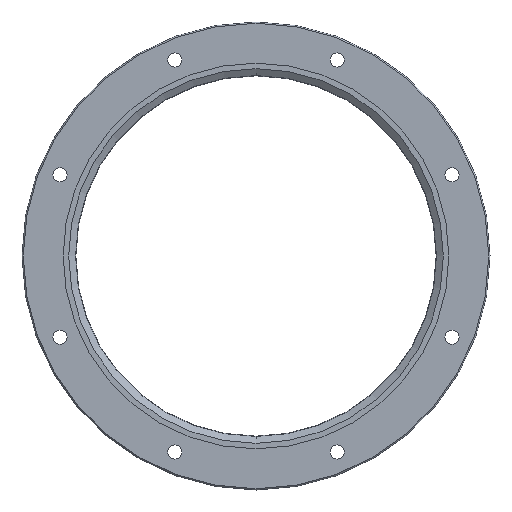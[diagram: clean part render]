
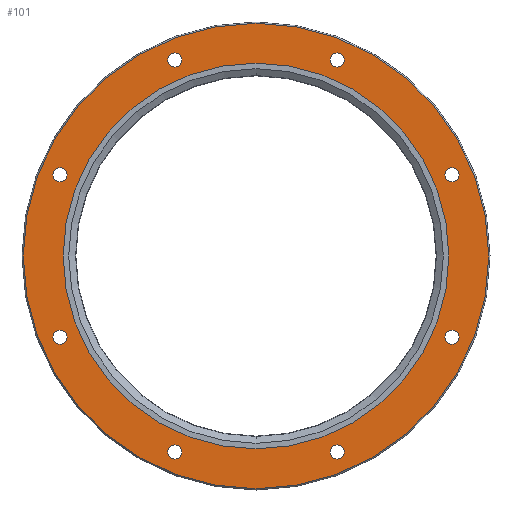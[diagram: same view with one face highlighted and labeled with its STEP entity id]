
A CAD part, front view. The second image highlights one B-rep face of the part: STEP entity #101.
In plain terms, the highlighted planar face has unit normal (0, -1, 0).
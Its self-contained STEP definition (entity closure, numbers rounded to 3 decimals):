
#101=ADVANCED_FACE('',(#190,#191,#192,#193,#194,#195,#196,#197,#198,#199),#200,.T.);
#190=FACE_OUTER_BOUND('',#342,.T.);
#191=FACE_BOUND('',#343,.T.);
#192=FACE_BOUND('',#344,.T.);
#193=FACE_BOUND('',#345,.T.);
#194=FACE_BOUND('',#346,.T.);
#195=FACE_BOUND('',#347,.T.);
#196=FACE_BOUND('',#348,.T.);
#197=FACE_BOUND('',#349,.T.);
#198=FACE_BOUND('',#350,.T.);
#199=FACE_BOUND('',#351,.T.);
#200=PLANE('',#352);
#342=EDGE_LOOP('',(#624,#625));
#343=EDGE_LOOP('',(#626,#627));
#344=EDGE_LOOP('',(#628,#629));
#345=EDGE_LOOP('',(#630,#631));
#346=EDGE_LOOP('',(#632,#633));
#347=EDGE_LOOP('',(#634,#635));
#348=EDGE_LOOP('',(#636,#637));
#349=EDGE_LOOP('',(#638,#639));
#350=EDGE_LOOP('',(#640,#641));
#351=EDGE_LOOP('',(#642,#643));
#352=AXIS2_PLACEMENT_3D('',#644,#645,#646);
#624=ORIENTED_EDGE('',*,*,#978,.F.);
#625=ORIENTED_EDGE('',*,*,#1006,.F.);
#626=ORIENTED_EDGE('',*,*,#1007,.T.);
#627=ORIENTED_EDGE('',*,*,#918,.T.);
#628=ORIENTED_EDGE('',*,*,#1008,.T.);
#629=ORIENTED_EDGE('',*,*,#926,.T.);
#630=ORIENTED_EDGE('',*,*,#1009,.T.);
#631=ORIENTED_EDGE('',*,*,#934,.T.);
#632=ORIENTED_EDGE('',*,*,#1010,.T.);
#633=ORIENTED_EDGE('',*,*,#942,.T.);
#634=ORIENTED_EDGE('',*,*,#1011,.T.);
#635=ORIENTED_EDGE('',*,*,#950,.T.);
#636=ORIENTED_EDGE('',*,*,#1012,.T.);
#637=ORIENTED_EDGE('',*,*,#958,.T.);
#638=ORIENTED_EDGE('',*,*,#1013,.T.);
#639=ORIENTED_EDGE('',*,*,#1002,.T.);
#640=ORIENTED_EDGE('',*,*,#1014,.T.);
#641=ORIENTED_EDGE('',*,*,#974,.T.);
#642=ORIENTED_EDGE('',*,*,#1015,.T.);
#643=ORIENTED_EDGE('',*,*,#966,.T.);
#644=CARTESIAN_POINT('',(-90.5,-9.825,0.0));
#645=DIRECTION('',(0.0,-1.0,0.0));
#646=DIRECTION('',(0.0,0.0,-1.0));
#918=EDGE_CURVE('',#1066,#1067,#1068,.T.);
#926=EDGE_CURVE('',#1082,#1083,#1084,.T.);
#934=EDGE_CURVE('',#1098,#1099,#1100,.T.);
#942=EDGE_CURVE('',#1114,#1115,#1116,.T.);
#950=EDGE_CURVE('',#1130,#1131,#1132,.T.);
#958=EDGE_CURVE('',#1146,#1147,#1148,.T.);
#966=EDGE_CURVE('',#1162,#1163,#1164,.T.);
#974=EDGE_CURVE('',#1178,#1179,#1180,.T.);
#978=EDGE_CURVE('',#1186,#1187,#1188,.T.);
#1002=EDGE_CURVE('',#1228,#1229,#1230,.T.);
#1006=EDGE_CURVE('',#1187,#1186,#1236,.T.);
#1007=EDGE_CURVE('',#1067,#1066,#1237,.T.);
#1008=EDGE_CURVE('',#1083,#1082,#1238,.T.);
#1009=EDGE_CURVE('',#1099,#1098,#1239,.T.);
#1010=EDGE_CURVE('',#1115,#1114,#1240,.T.);
#1011=EDGE_CURVE('',#1131,#1130,#1241,.T.);
#1012=EDGE_CURVE('',#1147,#1146,#1242,.T.);
#1013=EDGE_CURVE('',#1229,#1228,#1243,.T.);
#1014=EDGE_CURVE('',#1179,#1178,#1244,.T.);
#1015=EDGE_CURVE('',#1163,#1162,#1245,.T.);
#1066=VERTEX_POINT('',#1298);
#1067=VERTEX_POINT('',#1299);
#1068=CIRCLE('',#1300,2.75);
#1082=VERTEX_POINT('',#1318);
#1083=VERTEX_POINT('',#1319);
#1084=CIRCLE('',#1320,2.75);
#1098=VERTEX_POINT('',#1338);
#1099=VERTEX_POINT('',#1339);
#1100=CIRCLE('',#1340,2.75);
#1114=VERTEX_POINT('',#1358);
#1115=VERTEX_POINT('',#1359);
#1116=CIRCLE('',#1360,2.75);
#1130=VERTEX_POINT('',#1378);
#1131=VERTEX_POINT('',#1379);
#1132=CIRCLE('',#1380,2.75);
#1146=VERTEX_POINT('',#1398);
#1147=VERTEX_POINT('',#1399);
#1148=CIRCLE('',#1400,2.75);
#1162=VERTEX_POINT('',#1418);
#1163=VERTEX_POINT('',#1419);
#1164=CIRCLE('',#1420,2.75);
#1178=VERTEX_POINT('',#1438);
#1179=VERTEX_POINT('',#1439);
#1180=CIRCLE('',#1440,2.75);
#1186=VERTEX_POINT('',#1448);
#1187=VERTEX_POINT('',#1449);
#1188=CIRCLE('',#1450,90.5);
#1228=VERTEX_POINT('',#1502);
#1229=VERTEX_POINT('',#1503);
#1230=CIRCLE('',#1504,75.0);
#1236=CIRCLE('',#1512,90.5);
#1237=CIRCLE('',#1513,2.75);
#1238=CIRCLE('',#1514,2.75);
#1239=CIRCLE('',#1515,2.75);
#1240=CIRCLE('',#1516,2.75);
#1241=CIRCLE('',#1517,2.75);
#1242=CIRCLE('',#1518,2.75);
#1243=CIRCLE('',#1519,75.0);
#1244=CIRCLE('',#1520,2.75);
#1245=CIRCLE('',#1521,2.75);
#1298=CARTESIAN_POINT('',(-76.22,-9.825,28.821));
#1299=CARTESIAN_POINT('',(-76.22,-9.825,34.321));
#1300=AXIS2_PLACEMENT_3D('',#1580,#1581,#1582);
#1318=CARTESIAN_POINT('',(-31.571,-9.825,73.47));
#1319=CARTESIAN_POINT('',(-31.571,-9.825,78.97));
#1320=AXIS2_PLACEMENT_3D('',#1596,#1597,#1598);
#1338=CARTESIAN_POINT('',(31.571,-9.825,73.47));
#1339=CARTESIAN_POINT('',(31.571,-9.825,78.97));
#1340=AXIS2_PLACEMENT_3D('',#1612,#1613,#1614);
#1358=CARTESIAN_POINT('',(76.22,-9.825,28.821));
#1359=CARTESIAN_POINT('',(76.22,-9.825,34.321));
#1360=AXIS2_PLACEMENT_3D('',#1628,#1629,#1630);
#1378=CARTESIAN_POINT('',(76.22,-9.825,-34.321));
#1379=CARTESIAN_POINT('',(76.22,-9.825,-28.821));
#1380=AXIS2_PLACEMENT_3D('',#1644,#1645,#1646);
#1398=CARTESIAN_POINT('',(31.571,-9.825,-78.97));
#1399=CARTESIAN_POINT('',(31.571,-9.825,-73.47));
#1400=AXIS2_PLACEMENT_3D('',#1660,#1661,#1662);
#1418=CARTESIAN_POINT('',(-31.571,-9.825,-78.97));
#1419=CARTESIAN_POINT('',(-31.571,-9.825,-73.47));
#1420=AXIS2_PLACEMENT_3D('',#1676,#1677,#1678);
#1438=CARTESIAN_POINT('',(-76.22,-9.825,-34.321));
#1439=CARTESIAN_POINT('',(-76.22,-9.825,-28.821));
#1440=AXIS2_PLACEMENT_3D('',#1692,#1693,#1694);
#1448=CARTESIAN_POINT('',(0.0,-9.825,90.5));
#1449=CARTESIAN_POINT('',(0.,-9.825,-90.5));
#1450=AXIS2_PLACEMENT_3D('',#1700,#1701,#1702);
#1502=CARTESIAN_POINT('',(0.,-9.825,-75.0));
#1503=CARTESIAN_POINT('',(0.0,-9.825,75.0));
#1504=AXIS2_PLACEMENT_3D('',#1748,#1749,#1750);
#1512=AXIS2_PLACEMENT_3D('',#1756,#1757,#1758);
#1513=AXIS2_PLACEMENT_3D('',#1759,#1760,#1761);
#1514=AXIS2_PLACEMENT_3D('',#1762,#1763,#1764);
#1515=AXIS2_PLACEMENT_3D('',#1765,#1766,#1767);
#1516=AXIS2_PLACEMENT_3D('',#1768,#1769,#1770);
#1517=AXIS2_PLACEMENT_3D('',#1771,#1772,#1773);
#1518=AXIS2_PLACEMENT_3D('',#1774,#1775,#1776);
#1519=AXIS2_PLACEMENT_3D('',#1777,#1778,#1779);
#1520=AXIS2_PLACEMENT_3D('',#1780,#1781,#1782);
#1521=AXIS2_PLACEMENT_3D('',#1783,#1784,#1785);
#1580=CARTESIAN_POINT('',(-76.22,-9.825,31.571));
#1581=DIRECTION('',(-0.0,1.0,0.0));
#1582=DIRECTION('',(0.0,0.0,1.0));
#1596=CARTESIAN_POINT('',(-31.571,-9.825,76.22));
#1597=DIRECTION('',(-0.0,1.0,0.0));
#1598=DIRECTION('',(0.0,0.0,1.0));
#1612=CARTESIAN_POINT('',(31.571,-9.825,76.22));
#1613=DIRECTION('',(-0.0,1.0,0.0));
#1614=DIRECTION('',(0.0,0.0,1.0));
#1628=CARTESIAN_POINT('',(76.22,-9.825,31.571));
#1629=DIRECTION('',(-0.0,1.0,0.0));
#1630=DIRECTION('',(0.0,0.0,1.0));
#1644=CARTESIAN_POINT('',(76.22,-9.825,-31.571));
#1645=DIRECTION('',(-0.0,1.0,0.0));
#1646=DIRECTION('',(0.0,0.0,1.0));
#1660=CARTESIAN_POINT('',(31.571,-9.825,-76.22));
#1661=DIRECTION('',(-0.0,1.0,0.0));
#1662=DIRECTION('',(0.0,0.0,1.0));
#1676=CARTESIAN_POINT('',(-31.571,-9.825,-76.22));
#1677=DIRECTION('',(-0.0,1.0,0.0));
#1678=DIRECTION('',(0.0,0.0,1.0));
#1692=CARTESIAN_POINT('',(-76.22,-9.825,-31.571));
#1693=DIRECTION('',(-0.0,1.0,0.0));
#1694=DIRECTION('',(0.0,0.0,1.0));
#1700=CARTESIAN_POINT('',(0.0,-9.825,0.0));
#1701=DIRECTION('',(-0.0,1.0,0.0));
#1702=DIRECTION('',(0.0,0.0,1.0));
#1748=CARTESIAN_POINT('',(0.0,-9.825,0.0));
#1749=DIRECTION('',(-0.0,1.0,0.0));
#1750=DIRECTION('',(0.0,0.0,1.0));
#1756=CARTESIAN_POINT('',(0.0,-9.825,0.0));
#1757=DIRECTION('',(-0.0,1.0,0.0));
#1758=DIRECTION('',(0.0,0.0,1.0));
#1759=CARTESIAN_POINT('',(-76.22,-9.825,31.571));
#1760=DIRECTION('',(-0.0,1.0,0.0));
#1761=DIRECTION('',(0.0,0.0,1.0));
#1762=CARTESIAN_POINT('',(-31.571,-9.825,76.22));
#1763=DIRECTION('',(-0.0,1.0,0.0));
#1764=DIRECTION('',(0.0,0.0,1.0));
#1765=CARTESIAN_POINT('',(31.571,-9.825,76.22));
#1766=DIRECTION('',(-0.0,1.0,0.0));
#1767=DIRECTION('',(0.0,0.0,1.0));
#1768=CARTESIAN_POINT('',(76.22,-9.825,31.571));
#1769=DIRECTION('',(-0.0,1.0,0.0));
#1770=DIRECTION('',(0.0,0.0,1.0));
#1771=CARTESIAN_POINT('',(76.22,-9.825,-31.571));
#1772=DIRECTION('',(-0.0,1.0,0.0));
#1773=DIRECTION('',(0.0,0.0,1.0));
#1774=CARTESIAN_POINT('',(31.571,-9.825,-76.22));
#1775=DIRECTION('',(-0.0,1.0,0.0));
#1776=DIRECTION('',(0.0,0.0,1.0));
#1777=CARTESIAN_POINT('',(0.0,-9.825,0.0));
#1778=DIRECTION('',(-0.0,1.0,0.0));
#1779=DIRECTION('',(0.0,0.0,1.0));
#1780=CARTESIAN_POINT('',(-76.22,-9.825,-31.571));
#1781=DIRECTION('',(-0.0,1.0,0.0));
#1782=DIRECTION('',(0.0,0.0,1.0));
#1783=CARTESIAN_POINT('',(-31.571,-9.825,-76.22));
#1784=DIRECTION('',(-0.0,1.0,0.0));
#1785=DIRECTION('',(0.0,0.0,1.0));
